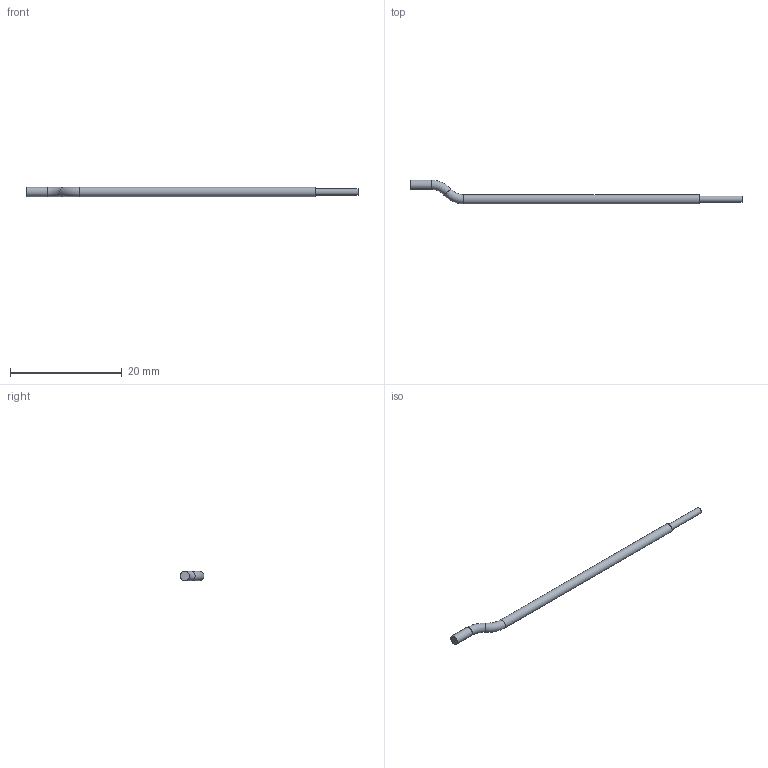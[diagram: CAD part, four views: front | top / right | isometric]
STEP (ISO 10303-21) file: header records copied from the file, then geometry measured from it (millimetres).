
FILE_DESCRIPTION(/* description */ ('STEP AP214','CAx-IF Rec.Pracs.---User Defined Attributes---1.5---2016-08-15'),/* implementation_level */ '2;1');
FILE_NAME(/* name */ '6adeca8ac84253b17e62e26e',/* time_stamp */ '2026-10-26T03:35:38Z',/* author */ (''),/* organization */ (''),/* preprocessor_version */ 'ST-DEVELOPER v20',/* originating_system */ 'ONSHAPE BY PTC INC, 1.222',/* authorisation */ ' ');
FILE_SCHEMA (('AUTOMOTIVE_DESIGN {1 0 10303 214 3 1 1}'));
Length unit declared in the file: metre
Products named in the file (1): BLDC_A2212_13T_1000KV-1
Bounding box: 59.31 x 4.23 x 1.65 mm (x, y, z)
Volume: 120.1 mm3; surface area: 303.6 mm2
Topology: 1 solids, 1 shells, 8 faces, 12 edges, 7 vertices
Faces by surface type: cylinder 3, plane 3, torus 2
Full cylindrical faces by diameter (mm): 1.143 x1, 1.651 x2
Entity records: 199 total; most frequent: DIRECTION 32, CARTESIAN_POINT 23, AXIS2_PLACEMENT_3D 16, ORIENTED_EDGE 14, EDGE_LOOP 14, FACE_BOUND 14, ADVANCED_FACE 8, EDGE_CURVE 7
